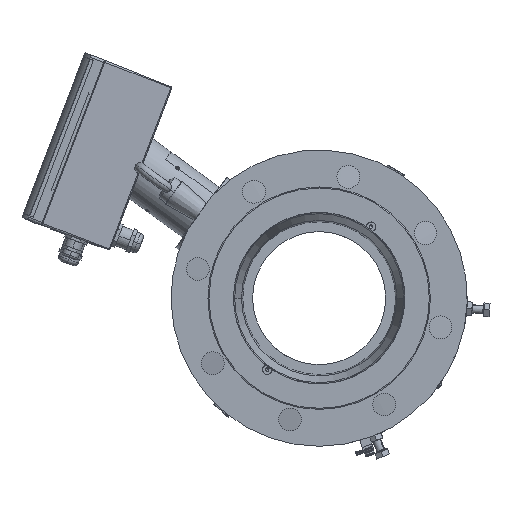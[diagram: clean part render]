
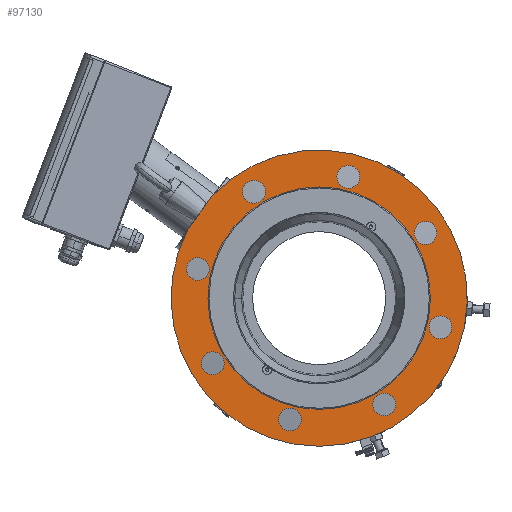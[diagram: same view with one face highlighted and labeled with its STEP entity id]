
A CAD part, left-side view. The second image highlights one B-rep face of the part: STEP entity #97130.
In plain terms, the highlighted planar face has unit normal (-1, 0, 0).
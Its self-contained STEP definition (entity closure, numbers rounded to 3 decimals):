
#23261=CARTESIAN_POINT('',(-223.,0.,0.));
#23262=DIRECTION('',(-1.,0.,0.));
#23263=DIRECTION('',(0.,0.886,0.465));
#23264=AXIS2_PLACEMENT_3D('',#23261,#23262,#23263);
#23387=DIRECTION('',(0.,-0.588,0.809));
#23388=VECTOR('',#23387,20.622);
#23389=CARTESIAN_POINT('',(-223.,126.192,66.195));
#23390=LINE('13663',#23389,#23388);
#23394=DIRECTION('',(0.,-0.588,0.809));
#23395=VECTOR('',#23394,20.622);
#23396=CARTESIAN_POINT('',(-223.,114.071,82.878));
#23397=LINE('13664',#23396,#23395);
#23401=CARTESIAN_POINT('',(-223.,0.,0.));
#23402=DIRECTION('',(-1.,0.,0.));
#23403=DIRECTION('',(0.,1.,0.));
#23404=AXIS2_PLACEMENT_3D('',#23401,#23402,#23403);
#23409=CARTESIAN_POINT('',(-223.,0.,0.));
#23410=DIRECTION('',(1.,0.,0.));
#23411=DIRECTION('',(0.,1.,0.));
#23412=AXIS2_PLACEMENT_3D('',#23409,#23410,#23411);
#23417=CARTESIAN_POINT('',(-223.,116.684,28.013));
#23418=DIRECTION('',(1.,0.,0.));
#23419=DIRECTION('',(0.,1.,0.));
#23420=AXIS2_PLACEMENT_3D('',#23417,#23418,#23419);
#23425=CARTESIAN_POINT('',(-223.,116.684,28.013));
#23426=DIRECTION('',(1.,0.,0.));
#23427=DIRECTION('',(0.,-1.,0.));
#23428=AXIS2_PLACEMENT_3D('',#23425,#23426,#23427);
#23433=CARTESIAN_POINT('',(-223.,62.7,102.317));
#23434=DIRECTION('',(1.,0.,0.));
#23435=DIRECTION('',(0.,0.707,0.707));
#23436=AXIS2_PLACEMENT_3D('',#23433,#23434,#23435);
#23441=CARTESIAN_POINT('',(-223.,62.7,102.317));
#23442=DIRECTION('',(1.,0.,0.));
#23443=DIRECTION('',(0.,-0.707,-0.707));
#23444=AXIS2_PLACEMENT_3D('',#23441,#23442,#23443);
#23449=CARTESIAN_POINT('',(-223.,-28.013,116.684));
#23450=DIRECTION('',(1.,0.,0.));
#23451=DIRECTION('',(0.,0.,1.));
#23452=AXIS2_PLACEMENT_3D('',#23449,#23450,#23451);
#23457=CARTESIAN_POINT('',(-223.,-28.013,116.684));
#23458=DIRECTION('',(1.,0.,0.));
#23459=DIRECTION('',(0.,0.,-1.));
#23460=AXIS2_PLACEMENT_3D('',#23457,#23458,#23459);
#23465=CARTESIAN_POINT('',(-223.,-102.317,62.7));
#23466=DIRECTION('',(1.,0.,0.));
#23467=DIRECTION('',(0.,-0.707,0.707));
#23468=AXIS2_PLACEMENT_3D('',#23465,#23466,#23467);
#23473=CARTESIAN_POINT('',(-223.,-102.317,62.7));
#23474=DIRECTION('',(1.,0.,0.));
#23475=DIRECTION('',(0.,0.707,-0.707));
#23476=AXIS2_PLACEMENT_3D('',#23473,#23474,#23475);
#23481=CARTESIAN_POINT('',(-223.,-116.684,-28.013));
#23482=DIRECTION('',(1.,0.,0.));
#23483=DIRECTION('',(0.,-1.,0.));
#23484=AXIS2_PLACEMENT_3D('',#23481,#23482,#23483);
#23489=CARTESIAN_POINT('',(-223.,-116.684,-28.013));
#23490=DIRECTION('',(1.,0.,0.));
#23491=DIRECTION('',(0.,1.,0.));
#23492=AXIS2_PLACEMENT_3D('',#23489,#23490,#23491);
#23497=CARTESIAN_POINT('',(-223.,-62.7,-102.317));
#23498=DIRECTION('',(1.,0.,0.));
#23499=DIRECTION('',(0.,-0.707,-0.707));
#23500=AXIS2_PLACEMENT_3D('',#23497,#23498,#23499);
#23505=CARTESIAN_POINT('',(-223.,-62.7,-102.317));
#23506=DIRECTION('',(1.,0.,0.));
#23507=DIRECTION('',(0.,0.707,0.707));
#23508=AXIS2_PLACEMENT_3D('',#23505,#23506,#23507);
#23513=CARTESIAN_POINT('',(-223.,28.013,-116.684));
#23514=DIRECTION('',(1.,0.,0.));
#23515=DIRECTION('',(0.,0.,-1.));
#23516=AXIS2_PLACEMENT_3D('',#23513,#23514,#23515);
#23521=CARTESIAN_POINT('',(-223.,28.013,-116.684));
#23522=DIRECTION('',(1.,0.,0.));
#23523=DIRECTION('',(0.,0.,1.));
#23524=AXIS2_PLACEMENT_3D('',#23521,#23522,#23523);
#23529=CARTESIAN_POINT('',(-223.,102.317,-62.7));
#23530=DIRECTION('',(1.,0.,0.));
#23531=DIRECTION('',(0.,0.707,-0.707));
#23532=AXIS2_PLACEMENT_3D('',#23529,#23530,#23531);
#23537=CARTESIAN_POINT('',(-223.,102.317,-62.7));
#23538=DIRECTION('',(1.,0.,0.));
#23539=DIRECTION('',(0.,-0.707,0.707));
#23540=AXIS2_PLACEMENT_3D('',#23537,#23538,#23539);
#69938=CARTESIAN_POINT('',(-223.,127.684,28.013));
#69939=CARTESIAN_POINT('',(-223.,105.684,28.013));
#69940=VERTEX_POINT('',#69938);
#69941=VERTEX_POINT('',#69939);
#69946=CARTESIAN_POINT('',(-223.,70.478,110.095));
#69947=CARTESIAN_POINT('',(-223.,54.922,94.539));
#69948=VERTEX_POINT('',#69946);
#69949=VERTEX_POINT('',#69947);
#69954=CARTESIAN_POINT('',(-223.,-28.013,127.684));
#69955=CARTESIAN_POINT('',(-223.,-28.013,105.684));
#69956=VERTEX_POINT('',#69954);
#69957=VERTEX_POINT('',#69955);
#69962=CARTESIAN_POINT('',(-223.,-110.095,70.478));
#69963=CARTESIAN_POINT('',(-223.,-94.539,54.922));
#69964=VERTEX_POINT('',#69962);
#69965=VERTEX_POINT('',#69963);
#69970=CARTESIAN_POINT('',(-223.,-127.684,-28.013));
#69971=CARTESIAN_POINT('',(-223.,-105.684,-28.013));
#69972=VERTEX_POINT('',#69970);
#69973=VERTEX_POINT('',#69971);
#69978=CARTESIAN_POINT('',(-223.,-70.478,-110.095));
#69979=CARTESIAN_POINT('',(-223.,-54.922,-94.539));
#69980=VERTEX_POINT('',#69978);
#69981=VERTEX_POINT('',#69979);
#69986=CARTESIAN_POINT('',(-223.,28.013,-127.684));
#69987=CARTESIAN_POINT('',(-223.,28.013,-105.684));
#69988=VERTEX_POINT('',#69986);
#69989=VERTEX_POINT('',#69987);
#69994=CARTESIAN_POINT('',(-223.,110.095,-70.478));
#69995=CARTESIAN_POINT('',(-223.,94.539,-54.922));
#69996=VERTEX_POINT('',#69994);
#69997=VERTEX_POINT('',#69995);
#70088=CARTESIAN_POINT('',(-223.,107.,0.));
#70089=VERTEX_POINT('',#70088);
#70094=CARTESIAN_POINT('',(-223.,-107.,0.));
#70095=VERTEX_POINT('',#70094);
#70229=CARTESIAN_POINT('',(-223.,101.95,99.561));
#70231=VERTEX_POINT('',#70229);
#70233=CARTESIAN_POINT('',(-223.,126.192,66.195));
#70235=VERTEX_POINT('',#70233);
#79057=CARTESIAN_POINT('',(-223.,114.071,82.878));
#79058=VERTEX_POINT('',#79057);
#97066=CARTESIAN_POINT('',(-223.,0.,0.));
#97067=DIRECTION('',(-1.,0.,0.));
#97068=DIRECTION('',(0.,1.,0.));
#97069=AXIS2_PLACEMENT_3D('',#97066,#97067,#97068);
#97070=PLANE('441',#97069);
#97071=ORIENTED_EDGE('13663',*,*,#96973,.T.);
#97072=ORIENTED_EDGE('13664',*,*,#97021,.T.);
#97073=ORIENTED_EDGE('4711',*,*,#97045,.F.);
#97074=EDGE_LOOP('441',(#97071,#97072,#97073));
#97075=FACE_OUTER_BOUND('441',#97074,.F.);
#97077=ORIENTED_EDGE('4584',*,*,#97076,.T.);
#97079=ORIENTED_EDGE('4587',*,*,#97078,.F.);
#97080=EDGE_LOOP('441',(#97077,#97079));
#97081=FACE_BOUND('441',#97080,.F.);
#97083=ORIENTED_EDGE('4452',*,*,#97082,.F.);
#97085=ORIENTED_EDGE('4453',*,*,#97084,.F.);
#97086=EDGE_LOOP('441',(#97083,#97085));
#97087=FACE_BOUND('441',#97086,.F.);
#97089=ORIENTED_EDGE('4458',*,*,#97088,.F.);
#97091=ORIENTED_EDGE('4459',*,*,#97090,.F.);
#97092=EDGE_LOOP('441',(#97089,#97091));
#97093=FACE_BOUND('441',#97092,.F.);
#97095=ORIENTED_EDGE('4464',*,*,#97094,.F.);
#97097=ORIENTED_EDGE('4465',*,*,#97096,.F.);
#97098=EDGE_LOOP('441',(#97095,#97097));
#97099=FACE_BOUND('441',#97098,.F.);
#97101=ORIENTED_EDGE('4470',*,*,#97100,.F.);
#97103=ORIENTED_EDGE('4471',*,*,#97102,.F.);
#97104=EDGE_LOOP('441',(#97101,#97103));
#97105=FACE_BOUND('441',#97104,.F.);
#97107=ORIENTED_EDGE('4476',*,*,#97106,.F.);
#97109=ORIENTED_EDGE('4477',*,*,#97108,.F.);
#97110=EDGE_LOOP('441',(#97107,#97109));
#97111=FACE_BOUND('441',#97110,.F.);
#97113=ORIENTED_EDGE('4482',*,*,#97112,.F.);
#97115=ORIENTED_EDGE('4483',*,*,#97114,.F.);
#97116=EDGE_LOOP('441',(#97113,#97115));
#97117=FACE_BOUND('441',#97116,.F.);
#97119=ORIENTED_EDGE('4488',*,*,#97118,.F.);
#97121=ORIENTED_EDGE('4489',*,*,#97120,.F.);
#97122=EDGE_LOOP('441',(#97119,#97121));
#97123=FACE_BOUND('441',#97122,.F.);
#97125=ORIENTED_EDGE('4494',*,*,#97124,.F.);
#97127=ORIENTED_EDGE('4495',*,*,#97126,.F.);
#97128=EDGE_LOOP('441',(#97125,#97127));
#97129=FACE_BOUND('441',#97128,.F.);
#23265=CIRCLE('4711',#23264,142.5);
#23405=CIRCLE('4584',#23404,107.);
#23413=CIRCLE('4587',#23412,107.);
#23421=CIRCLE('4452',#23420,11.);
#23429=CIRCLE('4453',#23428,11.);
#23437=CIRCLE('4458',#23436,11.);
#23445=CIRCLE('4459',#23444,11.);
#23453=CIRCLE('4464',#23452,11.);
#23461=CIRCLE('4465',#23460,11.);
#23469=CIRCLE('4470',#23468,11.);
#23477=CIRCLE('4471',#23476,11.);
#23485=CIRCLE('4476',#23484,11.);
#23493=CIRCLE('4477',#23492,11.);
#23501=CIRCLE('4482',#23500,11.);
#23509=CIRCLE('4483',#23508,11.);
#23517=CIRCLE('4488',#23516,11.);
#23525=CIRCLE('4489',#23524,11.);
#23533=CIRCLE('4494',#23532,11.);
#23541=CIRCLE('4495',#23540,11.);
#96973=EDGE_CURVE('13663',#70235,#79058,#23390,.T.);
#97021=EDGE_CURVE('13664',#79058,#70231,#23397,.T.);
#97045=EDGE_CURVE('4711',#70235,#70231,#23265,.T.);
#97076=EDGE_CURVE('4584',#70089,#70095,#23405,.T.);
#97078=EDGE_CURVE('4587',#70089,#70095,#23413,.T.);
#97082=EDGE_CURVE('4452',#69940,#69941,#23421,.T.);
#97084=EDGE_CURVE('4453',#69941,#69940,#23429,.T.);
#97088=EDGE_CURVE('4458',#69948,#69949,#23437,.T.);
#97090=EDGE_CURVE('4459',#69949,#69948,#23445,.T.);
#97094=EDGE_CURVE('4464',#69956,#69957,#23453,.T.);
#97096=EDGE_CURVE('4465',#69957,#69956,#23461,.T.);
#97100=EDGE_CURVE('4470',#69964,#69965,#23469,.T.);
#97102=EDGE_CURVE('4471',#69965,#69964,#23477,.T.);
#97106=EDGE_CURVE('4476',#69972,#69973,#23485,.T.);
#97108=EDGE_CURVE('4477',#69973,#69972,#23493,.T.);
#97112=EDGE_CURVE('4482',#69980,#69981,#23501,.T.);
#97114=EDGE_CURVE('4483',#69981,#69980,#23509,.T.);
#97118=EDGE_CURVE('4488',#69988,#69989,#23517,.T.);
#97120=EDGE_CURVE('4489',#69989,#69988,#23525,.T.);
#97124=EDGE_CURVE('4494',#69996,#69997,#23533,.T.);
#97126=EDGE_CURVE('4495',#69997,#69996,#23541,.T.);
#97130=ADVANCED_FACE('441',(#97075,#97081,#97087,#97093,#97099,#97105,#97111,
#97117,#97123,#97129),#97070,.T.);
